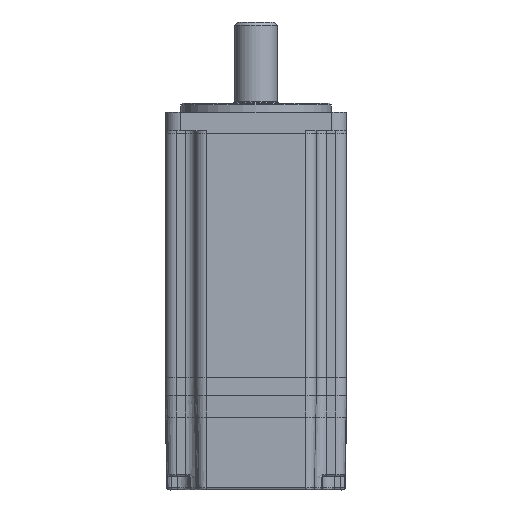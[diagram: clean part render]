
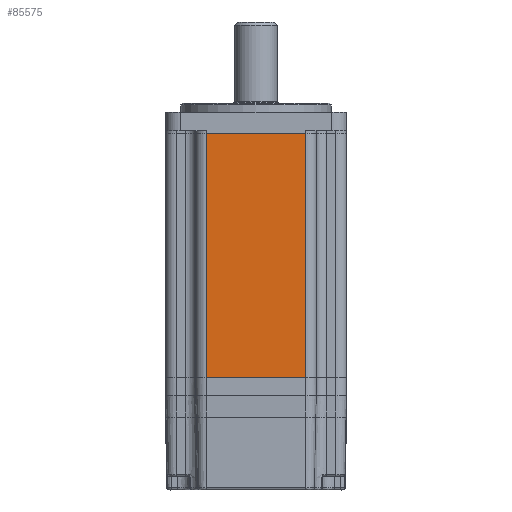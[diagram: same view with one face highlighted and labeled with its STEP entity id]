
A CAD part, front view. The second image highlights one B-rep face of the part: STEP entity #85575.
In plain terms, the highlighted planar face has unit normal (0, -1, 0) as drawn and (-1, 0, 0) by its records, which use the part's own axes.
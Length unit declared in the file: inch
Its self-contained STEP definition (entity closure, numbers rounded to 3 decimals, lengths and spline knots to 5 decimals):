
#639 = VERTEX_POINT ( 'NONE', #121550 ) ;
#6454 = VERTEX_POINT ( 'NONE', #91028 ) ;
#21323 = DIRECTION ( 'NONE',  ( 0., 0., -1. ) ) ;
#22587 = DIRECTION ( 'NONE',  ( 0., 1., 0. ) ) ;
#29190 = DIRECTION ( 'NONE',  ( 1., 0., 0. ) ) ;
#29743 = CARTESIAN_POINT ( 'NONE',  ( -1.1811, 0.64961, 3.18898 ) ) ;
#31199 = CARTESIAN_POINT ( 'NONE',  ( -1.1811, -0.64961, 0. ) ) ;
#34694 = EDGE_CURVE ( 'NONE', #120725, #639, #49563, .T. ) ;
#40061 = FACE_OUTER_BOUND ( 'NONE', #123981, .T. ) ;
#48536 = ORIENTED_EDGE ( 'NONE', *, *, #103053, .F. ) ;
#49563 = LINE ( 'NONE', #93704, #55554 ) ;
#55554 = VECTOR ( 'NONE', #137755, 39.37008 ) ;
#55594 = EDGE_CURVE ( 'NONE', #639, #113905, #76348, .T. ) ;
#57338 = VECTOR ( 'NONE', #21323, 39.37008 ) ;
#71629 = AXIS2_PLACEMENT_3D ( 'NONE', #128252, #29190, #73348 ) ;
#73348 = DIRECTION ( 'NONE',  ( 0., 0., -1. ) ) ;
#73906 = DIRECTION ( 'NONE',  ( 0., 0., 1. ) ) ;
#76348 = LINE ( 'NONE', #120379, #57338 ) ;
#77592 = LINE ( 'NONE', #121617, #83107 ) ;
#83107 = VECTOR ( 'NONE', #22587, 39.37008 ) ;
#84242 = PLANE ( 'NONE',  #71629 ) ;
#85575 = ADVANCED_FACE ( 'NONE', ( #40061 ), #84242, .F. ) ;
#91028 = CARTESIAN_POINT ( 'NONE',  ( -1.1811, 0.64961, 0. ) ) ;
#91924 = EDGE_CURVE ( 'NONE', #113905, #6454, #77592, .T. ) ;
#93704 = CARTESIAN_POINT ( 'NONE',  ( -1.1811, 0.7874, 3.18898 ) ) ;
#103053 = EDGE_CURVE ( 'NONE', #6454, #120725, #128805, .T. ) ;
#113905 = VERTEX_POINT ( 'NONE', #31199 ) ;
#118788 = ORIENTED_EDGE ( 'NONE', *, *, #91924, .F. ) ;
#120166 = ORIENTED_EDGE ( 'NONE', *, *, #55594, .F. ) ;
#120379 = CARTESIAN_POINT ( 'NONE',  ( -1.1811, -0.64961, 3.18898 ) ) ;
#120725 = VERTEX_POINT ( 'NONE', #140763 ) ;
#121550 = CARTESIAN_POINT ( 'NONE',  ( -1.1811, -0.64961, 3.18898 ) ) ;
#121617 = CARTESIAN_POINT ( 'NONE',  ( -1.1811, 0.7874, 0. ) ) ;
#123981 = EDGE_LOOP ( 'NONE', ( #118788, #120166, #125465, #48536 ) ) ;
#125465 = ORIENTED_EDGE ( 'NONE', *, *, #34694, .F. ) ;
#128252 = CARTESIAN_POINT ( 'NONE',  ( -1.1811, 0.7874, 3.18898 ) ) ;
#128805 = LINE ( 'NONE', #29743, #132350 ) ;
#132350 = VECTOR ( 'NONE', #73906, 39.37008 ) ;
#137755 = DIRECTION ( 'NONE',  ( 0., -1., 0. ) ) ;
#140763 = CARTESIAN_POINT ( 'NONE',  ( -1.1811, 0.64961, 3.18898 ) ) ;
